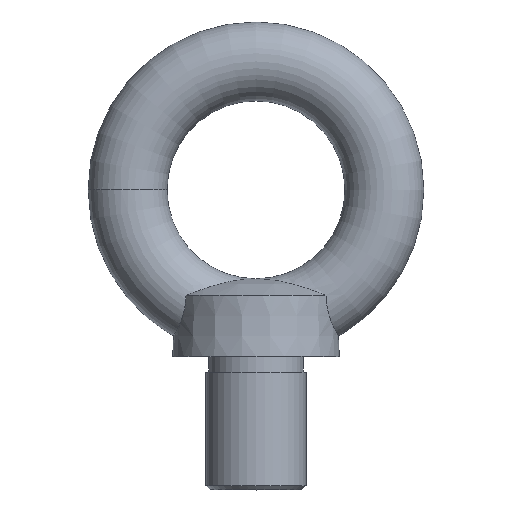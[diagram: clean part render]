
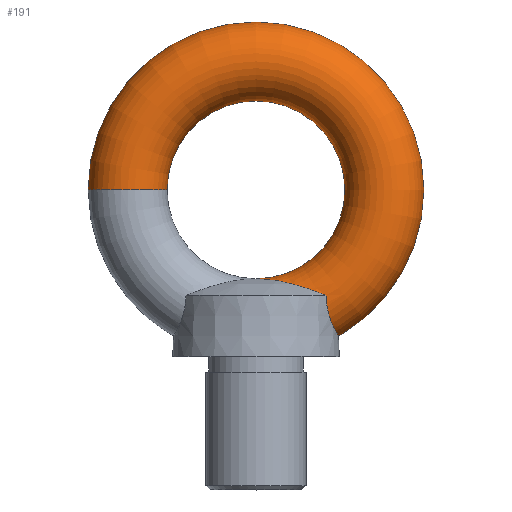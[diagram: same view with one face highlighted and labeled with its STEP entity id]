
A CAD part, top view. The second image highlights one B-rep face of the part: STEP entity #191.
In plain terms, the highlighted toroidal (fillet/blend) face has major radius 115.5 mm and minor radius 35.5 mm.
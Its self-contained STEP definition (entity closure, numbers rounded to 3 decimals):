
#15=TOROIDAL_SURFACE('',#235,115.5,35.5);
#20=B_SPLINE_CURVE_WITH_KNOTS('',3,(#339,#340,#341,#342,#343,#344,#345,
#346,#347,#348,#349,#350,#351,#352,#353,#354,#355,#356),.UNSPECIFIED.,.F.,
 .F.,(4,2,2,2,2,2,2,2,4),(0.,0.964,1.928,2.892,
3.856,4.79,5.723,6.511,7.114),
 .UNSPECIFIED.);
#22=B_SPLINE_CURVE_WITH_KNOTS('',3,(#378,#379,#380,#381,#382,#383,#384,
#385,#386,#387,#388,#389,#390,#391,#392,#393,#394,#395),.UNSPECIFIED.,.F.,
 .F.,(4,2,2,2,2,2,2,2,4),(18.784,19.354,20.11,
20.866,21.621,22.697,23.772,24.847,
25.922),.UNSPECIFIED.);
#24=B_SPLINE_CURVE_WITH_KNOTS('',3,(#435,#436,#437,#438,#439,#440,#441,
#442,#443,#444,#445,#446),.UNSPECIFIED.,.F.,.F.,(4,2,2,2,2,4),(-5.951,
-5.466,-4.082,-2.762,-1.444,
0.),.UNSPECIFIED.);
#25=B_SPLINE_CURVE_WITH_KNOTS('',3,(#448,#449,#450,#451,#452,#453,#454,
#455,#456,#457,#458,#459),.UNSPECIFIED.,.F.,.F.,(4,2,2,2,2,4),(-11.9,
-10.82,-9.621,-8.254,-6.859,
-5.951),.UNSPECIFIED.);
#42=FACE_OUTER_BOUND('',#55,.T.);
#55=EDGE_LOOP('',(#167,#168,#169,#170,#171,#172,#173));
#78=CIRCLE('',#236,35.5);
#79=CIRCLE('',#237,80.);
#87=VERTEX_POINT('',#318);
#88=VERTEX_POINT('',#337);
#90=VERTEX_POINT('',#377);
#97=VERTEX_POINT('',#434);
#98=VERTEX_POINT('',#461);
#108=EDGE_CURVE('',#87,#88,#20,.T.);
#110=EDGE_CURVE('',#90,#87,#22,.T.);
#120=EDGE_CURVE('',#97,#90,#24,.T.);
#122=EDGE_CURVE('',#88,#97,#25,.T.);
#123=EDGE_CURVE('',#98,#98,#78,.T.);
#124=EDGE_CURVE('',#98,#87,#79,.T.);
#167=ORIENTED_EDGE('',*,*,#123,.F.);
#168=ORIENTED_EDGE('',*,*,#124,.T.);
#169=ORIENTED_EDGE('',*,*,#108,.T.);
#170=ORIENTED_EDGE('',*,*,#122,.T.);
#171=ORIENTED_EDGE('',*,*,#120,.T.);
#172=ORIENTED_EDGE('',*,*,#110,.T.);
#173=ORIENTED_EDGE('',*,*,#124,.F.);
#191=ADVANCED_FACE('',(#42),#15,.T.);
#235=AXIS2_PLACEMENT_3D('',#460,#290,#291);
#236=AXIS2_PLACEMENT_3D('',#462,#292,#293);
#237=AXIS2_PLACEMENT_3D('',#463,#294,#295);
#290=DIRECTION('center_axis',(0.,0.,1.));
#291=DIRECTION('ref_axis',(1.,0.,0.));
#292=DIRECTION('center_axis',(0.,-1.,0.));
#293=DIRECTION('ref_axis',(-1.,0.,0.));
#294=DIRECTION('center_axis',(0.,0.,-1.));
#295=DIRECTION('ref_axis',(1.,0.,0.));
#318=CARTESIAN_POINT('',(0.,-80.,0.));
#337=CARTESIAN_POINT('',(62.948,-95.,35.467));
#339=CARTESIAN_POINT('Ctrl Pts',(0.,-80.,0.));
#340=CARTESIAN_POINT('Ctrl Pts',(2.399,-80.,2.138));
#341=CARTESIAN_POINT('Ctrl Pts',(4.914,-80.087,4.382));
#342=CARTESIAN_POINT('Ctrl Pts',(10.098,-80.467,8.904));
#343=CARTESIAN_POINT('Ctrl Pts',(12.768,-80.761,11.182));
#344=CARTESIAN_POINT('Ctrl Pts',(18.188,-81.553,15.588));
#345=CARTESIAN_POINT('Ctrl Pts',(20.94,-82.052,17.716));
#346=CARTESIAN_POINT('Ctrl Pts',(26.44,-83.215,21.667));
#347=CARTESIAN_POINT('Ctrl Pts',(29.187,-83.879,23.488));
#348=CARTESIAN_POINT('Ctrl Pts',(34.474,-85.282,26.665));
#349=CARTESIAN_POINT('Ctrl Pts',(37.386,-86.12,28.25));
#350=CARTESIAN_POINT('Ctrl Pts',(43.343,-87.966,31.009));
#351=CARTESIAN_POINT('Ctrl Pts',(46.389,-88.976,32.18));
#352=CARTESIAN_POINT('Ctrl Pts',(51.595,-90.777,33.78));
#353=CARTESIAN_POINT('Ctrl Pts',(54.24,-91.725,34.428));
#354=CARTESIAN_POINT('Ctrl Pts',(58.946,-93.469,35.189));
#355=CARTESIAN_POINT('Ctrl Pts',(61.,-94.248,35.393));
#356=CARTESIAN_POINT('Ctrl Pts',(62.948,-95.,35.467));
#377=CARTESIAN_POINT('',(62.948,-95.,-35.467));
#378=CARTESIAN_POINT('Ctrl Pts',(62.948,-95.,-35.467));
#379=CARTESIAN_POINT('Ctrl Pts',(61.144,-94.303,-35.398));
#380=CARTESIAN_POINT('Ctrl Pts',(59.292,-93.6,-35.223));
#381=CARTESIAN_POINT('Ctrl Pts',(54.938,-91.98,-34.563));
#382=CARTESIAN_POINT('Ctrl Pts',(52.422,-91.07,-33.996));
#383=CARTESIAN_POINT('Ctrl Pts',(47.448,-89.337,-32.534));
#384=CARTESIAN_POINT('Ctrl Pts',(44.989,-88.512,-31.637));
#385=CARTESIAN_POINT('Ctrl Pts',(40.243,-86.993,-29.622));
#386=CARTESIAN_POINT('Ctrl Pts',(37.955,-86.298,-28.502));
#387=CARTESIAN_POINT('Ctrl Pts',(32.746,-84.801,-25.696));
#388=CARTESIAN_POINT('Ctrl Pts',(29.631,-83.981,-23.786));
#389=CARTESIAN_POINT('Ctrl Pts',(23.423,-82.543,-19.565));
#390=CARTESIAN_POINT('Ctrl Pts',(20.328,-81.927,-17.255));
#391=CARTESIAN_POINT('Ctrl Pts',(14.252,-80.945,-12.427));
#392=CARTESIAN_POINT('Ctrl Pts',(11.267,-80.581,-9.909));
#393=CARTESIAN_POINT('Ctrl Pts',(5.48,-80.108,-4.887));
#394=CARTESIAN_POINT('Ctrl Pts',(2.675,-80.,-2.385));
#395=CARTESIAN_POINT('Ctrl Pts',(0.,-80.,0.));
#434=CARTESIAN_POINT('',(74.08,-131.58,0.));
#435=CARTESIAN_POINT('Ctrl Pts',(74.08,-131.58,0.));
#436=CARTESIAN_POINT('Ctrl Pts',(74.08,-131.58,-1.604));
#437=CARTESIAN_POINT('Ctrl Pts',(74.023,-131.487,-3.209));
#438=CARTESIAN_POINT('Ctrl Pts',(73.587,-130.769,-9.355));
#439=CARTESIAN_POINT('Ctrl Pts',(72.805,-129.49,-13.737));
#440=CARTESIAN_POINT('Ctrl Pts',(70.686,-125.556,-21.499));
#441=CARTESIAN_POINT('Ctrl Pts',(69.4,-123.,-24.845));
#442=CARTESIAN_POINT('Ctrl Pts',(66.846,-116.691,-30.312));
#443=CARTESIAN_POINT('Ctrl Pts',(65.629,-113.031,-32.355));
#444=CARTESIAN_POINT('Ctrl Pts',(63.705,-104.501,-35.127));
#445=CARTESIAN_POINT('Ctrl Pts',(63.124,-99.805,-35.645));
#446=CARTESIAN_POINT('Ctrl Pts',(62.948,-95.,-35.467));
#448=CARTESIAN_POINT('Ctrl Pts',(62.948,-95.,35.467));
#449=CARTESIAN_POINT('Ctrl Pts',(63.079,-98.59,35.6));
#450=CARTESIAN_POINT('Ctrl Pts',(63.434,-102.145,35.343));
#451=CARTESIAN_POINT('Ctrl Pts',(64.71,-109.437,33.747));
#452=CARTESIAN_POINT('Ctrl Pts',(65.661,-112.991,32.327));
#453=CARTESIAN_POINT('Ctrl Pts',(68.023,-119.882,27.953));
#454=CARTESIAN_POINT('Ctrl Pts',(69.417,-122.962,24.902));
#455=CARTESIAN_POINT('Ctrl Pts',(71.877,-127.864,17.586));
#456=CARTESIAN_POINT('Ctrl Pts',(72.901,-129.609,13.382));
#457=CARTESIAN_POINT('Ctrl Pts',(73.88,-131.257,5.99));
#458=CARTESIAN_POINT('Ctrl Pts',(74.08,-131.58,2.998));
#459=CARTESIAN_POINT('Ctrl Pts',(74.08,-131.58,0.));
#460=CARTESIAN_POINT('Origin',(0.,0.,0.));
#461=CARTESIAN_POINT('',(-80.,0.,0.));
#462=CARTESIAN_POINT('Origin',(-115.5,0.,0.));
#463=CARTESIAN_POINT('Origin',(0.,0.,0.));
